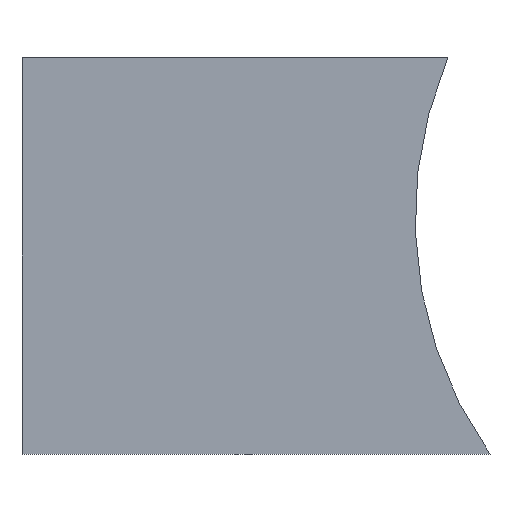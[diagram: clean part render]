
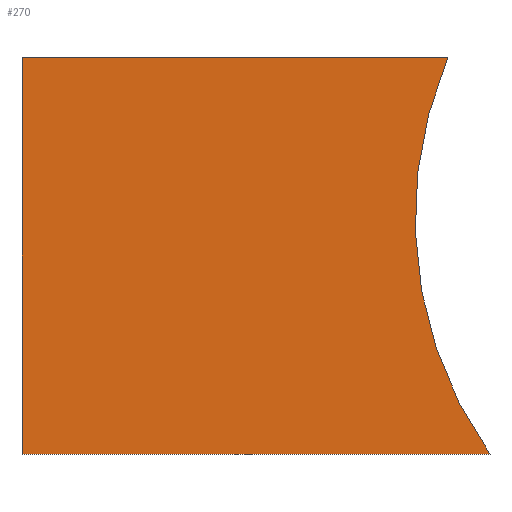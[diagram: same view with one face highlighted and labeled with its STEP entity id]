
A CAD part, front view. The second image highlights one B-rep face of the part: STEP entity #270.
In plain terms, the highlighted planar face has unit normal (0, -1, 0).
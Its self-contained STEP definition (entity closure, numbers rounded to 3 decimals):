
#32 = PLANE('',#33);
#33 = AXIS2_PLACEMENT_3D('',#34,#35,#36);
#34 = CARTESIAN_POINT('',(285.,-190.,25.));
#35 = DIRECTION('',(-0.,0.,1.));
#36 = DIRECTION('',(1.,0.,0.));
#57 = VERTEX_POINT('',#58);
#58 = CARTESIAN_POINT('',(430.,-194.,25.));
#72 = PLANE('',#73);
#73 = AXIS2_PLACEMENT_3D('',#74,#75,#76);
#74 = CARTESIAN_POINT('',(430.,-210.,0.));
#75 = DIRECTION('',(1.,0.,-0.));
#76 = DIRECTION('',(0.,0.,1.));
#84 = EDGE_CURVE('',#57,#85,#87,.T.);
#85 = VERTEX_POINT('',#86);
#86 = CARTESIAN_POINT('',(578.816,-194.,25.));
#87 = SURFACE_CURVE('',#88,(#92,#99),.PCURVE_S1.);
#88 = LINE('',#89,#90);
#89 = CARTESIAN_POINT('',(285.,-194.,25.));
#90 = VECTOR('',#91,1.);
#91 = DIRECTION('',(1.,0.,0.));
#92 = PCURVE('',#32,#93);
#93 = DEFINITIONAL_REPRESENTATION('',(#94),#98);
#94 = LINE('',#95,#96);
#95 = CARTESIAN_POINT('',(0.,-4.));
#96 = VECTOR('',#97,1.);
#97 = DIRECTION('',(1.,0.));
#98 = ( GEOMETRIC_REPRESENTATION_CONTEXT(2) 
PARAMETRIC_REPRESENTATION_CONTEXT() REPRESENTATION_CONTEXT('2D SPACE',''
  ) );
#99 = PCURVE('',#100,#105);
#100 = PLANE('',#101);
#101 = AXIS2_PLACEMENT_3D('',#102,#103,#104);
#102 = CARTESIAN_POINT('',(465.091,-194.,87.829));
#103 = DIRECTION('',(-0.,-1.,-0.));
#104 = DIRECTION('',(0.,0.,-1.));
#105 = DEFINITIONAL_REPRESENTATION('',(#106),#110);
#106 = LINE('',#107,#108);
#107 = CARTESIAN_POINT('',(62.829,-180.091));
#108 = VECTOR('',#109,1.);
#109 = DIRECTION('',(0.,1.));
#110 = ( GEOMETRIC_REPRESENTATION_CONTEXT(2) 
PARAMETRIC_REPRESENTATION_CONTEXT() REPRESENTATION_CONTEXT('2D SPACE',''
  ) );
#126 = CYLINDRICAL_SURFACE('',#127,130.);
#127 = AXIS2_PLACEMENT_3D('',#128,#129,#130);
#128 = CARTESIAN_POINT('',(685.,-240.,100.));
#129 = DIRECTION('',(0.,1.,0.));
#130 = DIRECTION('',(0.,-0.,1.));
#184 = PLANE('',#185);
#185 = AXIS2_PLACEMENT_3D('',#186,#187,#188);
#186 = CARTESIAN_POINT('',(622.,-190.,151.));
#187 = DIRECTION('',(-0.,-0.,-1.));
#188 = DIRECTION('',(-1.,0.,0.));
#222 = EDGE_CURVE('',#85,#223,#225,.T.);
#223 = VERTEX_POINT('',#224);
#224 = CARTESIAN_POINT('',(565.422,-194.,151.));
#225 = SURFACE_CURVE('',#226,(#231,#238),.PCURVE_S1.);
#226 = CIRCLE('',#227,130.);
#227 = AXIS2_PLACEMENT_3D('',#228,#229,#230);
#228 = CARTESIAN_POINT('',(685.,-194.,100.));
#229 = DIRECTION('',(0.,1.,0.));
#230 = DIRECTION('',(0.,-0.,1.));
#231 = PCURVE('',#126,#232);
#232 = DEFINITIONAL_REPRESENTATION('',(#233),#237);
#233 = LINE('',#234,#235);
#234 = CARTESIAN_POINT('',(0.,46.));
#235 = VECTOR('',#236,1.);
#236 = DIRECTION('',(1.,0.));
#237 = ( GEOMETRIC_REPRESENTATION_CONTEXT(2) 
PARAMETRIC_REPRESENTATION_CONTEXT() REPRESENTATION_CONTEXT('2D SPACE',''
  ) );
#238 = PCURVE('',#100,#239);
#239 = DEFINITIONAL_REPRESENTATION('',(#240),#248);
#240 = ( BOUNDED_CURVE() B_SPLINE_CURVE(2,(#241,#242,#243,#244,#245,#246
,#247),.UNSPECIFIED.,.T.,.F.) B_SPLINE_CURVE_WITH_KNOTS((1,2,2,2,2,1),(
    -2.094,0.,2.094,4.189,6.283,
8.378),.UNSPECIFIED.) CURVE() GEOMETRIC_REPRESENTATION_ITEM() 
RATIONAL_B_SPLINE_CURVE((1.,0.5,1.,0.5,1.,0.5,1.)) REPRESENTATION_ITEM(
  '') );
#241 = CARTESIAN_POINT('',(-142.171,219.909));
#242 = CARTESIAN_POINT('',(-142.171,445.075));
#243 = CARTESIAN_POINT('',(52.829,332.492));
#244 = CARTESIAN_POINT('',(247.829,219.909));
#245 = CARTESIAN_POINT('',(52.829,107.325));
#246 = CARTESIAN_POINT('',(-142.171,-5.258));
#247 = CARTESIAN_POINT('',(-142.171,219.909));
#248 = ( GEOMETRIC_REPRESENTATION_CONTEXT(2) 
PARAMETRIC_REPRESENTATION_CONTEXT() REPRESENTATION_CONTEXT('2D SPACE',''
  ) );
#270 = ADVANCED_FACE('',(#271),#100,.T.);
#271 = FACE_BOUND('',#272,.T.);
#272 = EDGE_LOOP('',(#273,#274,#297,#318));
#273 = ORIENTED_EDGE('',*,*,#222,.T.);
#274 = ORIENTED_EDGE('',*,*,#275,.T.);
#275 = EDGE_CURVE('',#223,#276,#278,.T.);
#276 = VERTEX_POINT('',#277);
#277 = CARTESIAN_POINT('',(430.,-194.,151.));
#278 = SURFACE_CURVE('',#279,(#283,#290),.PCURVE_S1.);
#279 = LINE('',#280,#281);
#280 = CARTESIAN_POINT('',(622.,-194.,151.));
#281 = VECTOR('',#282,1.);
#282 = DIRECTION('',(-1.,0.,0.));
#283 = PCURVE('',#100,#284);
#284 = DEFINITIONAL_REPRESENTATION('',(#285),#289);
#285 = LINE('',#286,#287);
#286 = CARTESIAN_POINT('',(-63.171,156.909));
#287 = VECTOR('',#288,1.);
#288 = DIRECTION('',(0.,-1.));
#289 = ( GEOMETRIC_REPRESENTATION_CONTEXT(2) 
PARAMETRIC_REPRESENTATION_CONTEXT() REPRESENTATION_CONTEXT('2D SPACE',''
  ) );
#290 = PCURVE('',#184,#291);
#291 = DEFINITIONAL_REPRESENTATION('',(#292),#296);
#292 = LINE('',#293,#294);
#293 = CARTESIAN_POINT('',(0.,-4.));
#294 = VECTOR('',#295,1.);
#295 = DIRECTION('',(1.,0.));
#296 = ( GEOMETRIC_REPRESENTATION_CONTEXT(2) 
PARAMETRIC_REPRESENTATION_CONTEXT() REPRESENTATION_CONTEXT('2D SPACE',''
  ) );
#297 = ORIENTED_EDGE('',*,*,#298,.F.);
#298 = EDGE_CURVE('',#57,#276,#299,.T.);
#299 = SURFACE_CURVE('',#300,(#304,#311),.PCURVE_S1.);
#300 = LINE('',#301,#302);
#301 = CARTESIAN_POINT('',(430.,-194.,43.915));
#302 = VECTOR('',#303,1.);
#303 = DIRECTION('',(0.,-0.,1.));
#304 = PCURVE('',#100,#305);
#305 = DEFINITIONAL_REPRESENTATION('',(#306),#310);
#306 = LINE('',#307,#308);
#307 = CARTESIAN_POINT('',(43.915,-35.091));
#308 = VECTOR('',#309,1.);
#309 = DIRECTION('',(-1.,0.));
#310 = ( GEOMETRIC_REPRESENTATION_CONTEXT(2) 
PARAMETRIC_REPRESENTATION_CONTEXT() REPRESENTATION_CONTEXT('2D SPACE',''
  ) );
#311 = PCURVE('',#72,#312);
#312 = DEFINITIONAL_REPRESENTATION('',(#313),#317);
#313 = LINE('',#314,#315);
#314 = CARTESIAN_POINT('',(43.915,-16.));
#315 = VECTOR('',#316,1.);
#316 = DIRECTION('',(1.,0.));
#317 = ( GEOMETRIC_REPRESENTATION_CONTEXT(2) 
PARAMETRIC_REPRESENTATION_CONTEXT() REPRESENTATION_CONTEXT('2D SPACE',''
  ) );
#318 = ORIENTED_EDGE('',*,*,#84,.T.);
